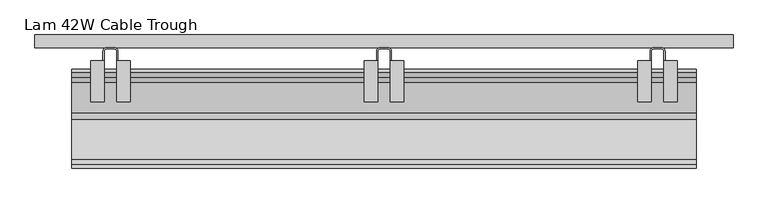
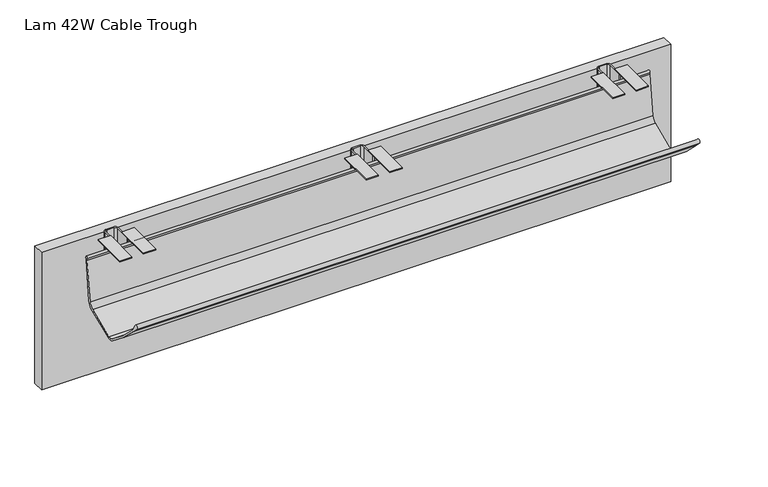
"""IFC4 building model written with IfcOpenShell, lengths in millimetres: furniture geometry, HermanMiller_ThrivePortfolio_Y1113_FabricModestyPanel : Lam 42W Cable Trough."""

from ifc_helpers import new_model, si_unit, point, frame, frame_2d, origin, place, context, project, spatial, polyline, circle_curve, trimmed, segment, composite_curve, outline, extrude, source, transform, mapped, element, save
from ifc_brep_helpers import plane_surface, cylinder_surface, revolved_surface, advanced_brep


def lam_42w_cable_trough_20baa9bf(model_context):
    return source(origin(), model_context, "Body", "SolidModel", [
        advanced_brep(
        [(998.7153477, -129.9784643, 581.1783587), (998.7153477, -138.7139894, 582.4060567), (998.7153477, -198.75422, 634.7826925), (998.7153477, -205.6805694, 647.1068285), (998.7153477, -210.7198187, 643.3318213), (998.7153477, -201.9455586, 634.3526316), (998.7153477, -140.1690696, 580.3237712), (998.7153477, -128.7464487, 578.9254856), (998.7153477, -81.6381997, 596.9970871), (998.7153477, -71.8455102, 609.1183797), (998.7153477, -64.3572545, 676.9567898), (998.7153477, -64.1154724, 681.4861643), (998.7153477, -68.0580279, 680.8258123), (998.7153477, -66.8071049, 677.1174631), (998.7153477, -75.8148763, 609.8656088), (998.7153477, -83.0609093, 601.0742849), (64.9478, -129.9784643, 581.1783587), (64.9478, -83.0609093, 601.0742849), (64.9478, -75.8148763, 609.8656088), (64.9478, -66.8071049, 677.1174631), (64.9478, -68.0580279, 680.8258123), (64.9478, -64.1154724, 681.4861643), (64.9478, -64.3572545, 676.9567898), (64.9478, -71.8455102, 609.1183797), (64.9478, -81.6381999, 596.9970876), (64.9478, -128.7464487, 578.9254856), (64.9478, -140.1690696, 580.3237712), (64.9478, -201.9455586, 634.3526316), (64.9478, -210.7198187, 643.3318213), (64.9478, -205.6805694, 647.1068285), (64.9478, -198.75422, 634.7826925), (64.9478, -138.7139894, 582.4060567)],
        [
            (0, 1, circle_curve(frame((998.7153477, -133.1380873, 590.3885672), z_axis=(-1.0, 0.0, 0.0), x_axis=(0.0, 1.0, 0.0)), 9.7371022)),
            (1, 2, circle_curve(frame((998.7153477, 73.7032601, 886.5044589), z_axis=(-1.0, 0.0, 0.0), x_axis=(0.0, 1.0, 0.0)), 370.9405965)),
            (2, 3),
            (3, 4, circle_curve(frame((998.7153477, -208.4487225, 645.5510849), z_axis=(1.0, 0.0, 0.0), x_axis=(0.0, 1.0, 0.0)), 3.1753754)),
            (4, 5),
            (5, 6, circle_curve(frame((998.7153477, 76.537838, 890.4379944), z_axis=(1.0, 0.0, 0.0), x_axis=(0.0, 1.0, 0.0)), 378.3288454)),
            (6, 7, circle_curve(frame((998.7153477, -133.1410154, 590.381132), z_axis=(1.0, 0.0, 0.0), x_axis=(0.0, 1.0, 0.0)), 12.2696394)),
            (7, 8, circle_curve(frame((998.7153477, -392.0017774, 1335.603441), z_axis=(1.0, 0.0, 0.0), x_axis=(0.0, 1.0, 0.0)), 801.1647124)),
            (8, 9, circle_curve(frame((998.7153477, -88.0102619, 612.1613845), z_axis=(1.0, 0.0, 0.0), x_axis=(0.0, 1.0, 0.0)), 16.4486801)),
            (9, 10, circle_curve(frame((998.7153477, -512.7649574, 692.1212018), z_axis=(1.0, 0.0, 0.0), x_axis=(0.0, 1.0, 0.0)), 448.6640474)),
            (10, 11),
            (11, 12, circle_curve(frame((998.7153477, -66.1477003, 681.5198841), z_axis=(1.0, 0.0, 0.0), x_axis=(0.0, 1.0, 0.0)), 2.0325076)),
            (12, 13),
            (13, 14, circle_curve(frame((998.7153477, -447.5076004, 693.8796345), z_axis=(-1.0, 0.0, 0.0), x_axis=(0.0, 1.0, 0.0)), 381.0693344)),
            (14, 15, circle_curve(frame((998.7153477, -89.557462, 613.8107535), z_axis=(-1.0, 0.0, 0.0), x_axis=(0.0, 1.0, 0.0)), 14.2976511)),
            (15, 0, circle_curve(frame((998.7153477, -247.1923462, 922.853387), z_axis=(-1.0, 0.0, 0.0), x_axis=(0.0, 1.0, 0.0)), 361.2214267)),
            (16, 17, circle_curve(frame((64.9478, -247.1923462, 922.853387), z_axis=(1.0, 0.0, 0.0), x_axis=(0.0, 1.0, 0.0)), 361.2214267)),
            (17, 18, circle_curve(frame((64.9478, -89.557462, 613.8107535), z_axis=(1.0, 0.0, 0.0), x_axis=(0.0, 1.0, 0.0)), 14.2976511)),
            (18, 19, circle_curve(frame((64.9478, -447.5076004, 693.8796345), z_axis=(1.0, 0.0, 0.0), x_axis=(0.0, 1.0, 0.0)), 381.0693344)),
            (19, 20),
            (20, 21, circle_curve(frame((64.9478, -66.1477003, 681.5198841), z_axis=(-1.0, 0.0, 0.0), x_axis=(0.0, 1.0, 0.0)), 2.0325076)),
            (21, 22),
            (22, 23, circle_curve(frame((64.9478, -512.7649574, 692.1212018), z_axis=(-1.0, 0.0, 0.0), x_axis=(0.0, 1.0, 0.0)), 448.6640474)),
            (23, 24, circle_curve(frame((64.9478, -88.0102619, 612.1613845), z_axis=(-1.0, 0.0, 0.0), x_axis=(0.0, 1.0, 0.0)), 16.4486801)),
            (24, 25, circle_curve(frame((64.9478, -392.0017774, 1335.603441), z_axis=(-1.0, 0.0, 0.0), x_axis=(0.0, 1.0, 0.0)), 801.1647124)),
            (25, 26, circle_curve(frame((64.9478, -133.1410154, 590.381132), z_axis=(-1.0, 0.0, 0.0), x_axis=(0.0, 1.0, 0.0)), 12.2696394)),
            (26, 27, circle_curve(frame((64.9478, 76.537838, 890.4379944), z_axis=(-1.0, 0.0, 0.0), x_axis=(0.0, 1.0, 0.0)), 378.3288454)),
            (27, 28),
            (28, 29, circle_curve(frame((64.9478, -208.4487225, 645.5510849), z_axis=(-1.0, 0.0, 0.0), x_axis=(0.0, 1.0, 0.0)), 3.1753754)),
            (29, 30),
            (30, 31, circle_curve(frame((64.9478, 73.7032601, 886.5044589), z_axis=(1.0, 0.0, 0.0), x_axis=(0.0, 1.0, 0.0)), 370.9405965)),
            (31, 16, circle_curve(frame((64.9478, -133.1380873, 590.3885672), z_axis=(1.0, 0.0, 0.0), x_axis=(0.0, 1.0, 0.0)), 9.7371022)),
            (0, 16),
            (31, 1),
            (30, 2),
            (29, 3),
            (28, 4),
            (27, 5),
            (26, 6),
            (25, 7),
            (24, 8),
            (23, 9),
            (22, 10),
            (21, 11),
            (20, 12),
            (19, 13),
            (18, 14),
            (17, 15),
        ],
        [
            plane_surface(frame((998.7153477, -123.4009851, 590.3885672), z_axis=(1.0, 0.0, 0.0), x_axis=(0.0, 0.0, -1.0))),
            plane_surface(frame((64.9478, -123.4009851, 590.3885672), z_axis=(-1.0, 0.0, 0.0), x_axis=(0.0, 0.0, 1.0))),
            revolved_surface(polyline([(64.9478, -123.4009851, 590.3885672), (998.7153477, -123.4009851, 590.3885672)]), (64.9478, -133.1380873, 590.3885672), (-1.0, 0.0, 0.0)),
            revolved_surface(polyline([(64.9478, 444.64385660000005, 886.5044589), (998.7153477, 444.64385660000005, 886.5044589)]), (64.9478, 73.7032601, 886.5044589), (-1.0, 0.0, 0.0)),
            plane_surface(frame((998.7153477, -198.75422, 634.7826925), z_axis=(0.0, 0.8717561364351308, 0.48994003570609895), x_axis=(-1.0, 0.0, 0.0))),
            cylinder_surface(frame((64.9478, -208.4487225, 645.5510849), z_axis=(1.0, 0.0, 0.0), x_axis=(0.0, 1.0, 0.0)), 3.1753754),
            plane_surface(frame((998.7153477, -210.7198187, 643.3318213), z_axis=(0.0, -0.7152213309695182, -0.698898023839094), x_axis=(-1.0, 0.0, 0.0))),
            cylinder_surface(frame((64.9478, 76.537838, 890.4379944), z_axis=(1.0, 0.0, 0.0), x_axis=(0.0, 1.0, 0.0)), 378.3288454),
            cylinder_surface(frame((64.9478, -133.1410154, 590.381132), z_axis=(1.0, 0.0, 0.0), x_axis=(0.0, 1.0, 0.0)), 12.2696394),
            cylinder_surface(frame((64.9478, -392.0017774, 1335.603441), z_axis=(1.0, 0.0, 0.0), x_axis=(0.0, 1.0, 0.0)), 801.1647124),
            cylinder_surface(frame((64.9478, -88.0102619, 612.1613845), z_axis=(1.0, 0.0, 0.0), x_axis=(0.0, 1.0, 0.0)), 16.4486801),
            cylinder_surface(frame((64.9478, -512.7649574, 692.1212018), z_axis=(1.0, 0.0, 0.0), x_axis=(0.0, 1.0, 0.0)), 448.6640474),
            plane_surface(frame((998.7153477, -64.3572545, 676.9567898), z_axis=(0.0, 0.9985782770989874, -0.053305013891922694), x_axis=(-1.0, 0.0, 0.0))),
            cylinder_surface(frame((64.9478, -66.1477003, 681.5198841), z_axis=(1.0, 0.0, 0.0), x_axis=(0.0, 1.0, 0.0)), 2.0325076),
            plane_surface(frame((998.7153477, -68.0580279, 680.8258123), z_axis=(0.0, -0.9475421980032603, -0.3196306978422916), x_axis=(-1.0, 0.0, 0.0))),
            revolved_surface(polyline([(64.9478, -66.438266, 693.8796345), (998.7153477, -66.438266, 693.8796345)]), (64.9478, -447.5076004, 693.8796345), (-1.0, 0.0, 0.0)),
            revolved_surface(polyline([(64.9478, -75.2598109, 613.8107535), (998.7153477, -75.2598109, 613.8107535)]), (64.9478, -89.557462, 613.8107535), (-1.0, 0.0, 0.0)),
            revolved_surface(polyline([(64.9478, 114.02908049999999, 922.853387), (998.7153477, 114.02908049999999, 922.853387)]), (64.9478, -247.1923462, 922.853387), (-1.0, 0.0, 0.0)),
        ],
        [
            (0, [[1, 2, 3, 4, 5, 6, 7, 8, 9, 10, 11, 12, 13, 14, 15, 16]]),
            (1, [[17, 18, 19, 20, 21, 22, 23, 24, 25, 26, 27, 28, 29, 30, 31, 32]]),
            (2, [[-1, 33, -32, 34]]),
            (3, [[-2, -34, -31, 35]]),
            (4, [[-3, -35, -30, 36]]),
            (5, [[-4, -36, -29, 37]]),
            (6, [[-5, -37, -28, 38]]),
            (7, [[-6, -38, -27, 39]]),
            (8, [[-7, -39, -26, 40]]),
            (9, [[-8, -40, -25, 41]]),
            (10, [[-9, -41, -24, 42]]),
            (11, [[-10, -42, -23, 43]]),
            (12, [[-11, -43, -22, 44]]),
            (13, [[-12, -44, -21, 45]]),
            (14, [[-13, -45, -20, 46]]),
            (15, [[-14, -46, -19, 47]]),
            (16, [[-15, -47, -18, 48]]),
            (17, [[-16, -48, -17, -33]]),
        ],
    ),
        extrude(outline(composite_curve([segment(polyline([(543.0520075, -36.9120729), (543.0520075, -64.1154724), (541.2993892, -64.1154724), (541.2993892, -36.9120524)]), True, "CONTINUOUS"), segment(trimmed(circle_curve(frame_2d((538.0228087, -36.9120524)), 3.2765805), [point((541.2993892, -36.9120524))], [point((538.0228087, -33.6354719))], True, "CARTESIAN"), True, "CONTINUOUS"), segment(polyline([(538.0228087, -33.6354719), (525.7292118, -33.6354719)]), True, "CONTINUOUS"), segment(trimmed(circle_curve(frame_2d((525.7292118, -36.9120729)), 3.276601), [point((525.7292118, -33.6354719))], [point((522.4526108, -36.9120729))], True, "CARTESIAN"), True, "CONTINUOUS"), segment(polyline([(522.4526108, -36.9120729), (522.4526108, -64.1154724), (520.7000288, -64.1154724), (520.7000288, -36.9138188)]), True, "CONTINUOUS"), segment(trimmed(circle_curve(frame_2d((525.7292277, -36.9138188)), 5.0291988), [point((520.7000288, -36.9138188))], [point((525.7292277, -31.88462))], False, "CARTESIAN"), True, "CONTINUOUS"), segment(polyline([(525.7292277, -31.88462), (538.0245546, -31.88462)]), True, "CONTINUOUS"), segment(trimmed(circle_curve(frame_2d((538.0245546, -36.9120729)), 5.0274529), [point((538.0245546, -31.88462))], [point((543.0520075, -36.9120729))], False, "CARTESIAN"), True, "CONTINUOUS")], self_intersect=False)), frame((0.0, 0.0, 627.634001), z_axis=(0.0, 0.0, 1.0), x_axis=(1.0, 0.0, 0.0)), (0.0, 0.0, 1.0), 64.6430019),
        extrude(outline(polyline([(522.4526108, -50.8780491), (522.4526108, -112.3460495), (502.0817975, -112.3460495), (502.0817975, -50.8780491), (522.4526108, -50.8780491)])), frame((0.0, 0.0, 692.2770029), z_axis=(0.0, 0.0, 1.0), x_axis=(1.0, 0.0, 0.0)), (0.0, 0.0, 1.0), 1.7525971),
        extrude(outline(polyline([(541.2993892, -50.8780491), (561.6702025, -50.8780491), (561.6702025, -112.3460495), (541.2993892, -112.3460495), (541.2993892, -50.8780491)])), frame((0.0, 0.0, 692.2770029), z_axis=(0.0, 0.0, 1.0), x_axis=(1.0, 0.0, 0.0)), (0.0, 0.0, 1.0), 1.7525971),
        extrude(outline(composite_curve([segment(polyline([(134.034088, -64.1154724), (132.2814878, -64.1154724), (132.2814878, -36.9120706)]), True, "CONTINUOUS"), segment(trimmed(circle_curve(frame_2d((129.0048891, -36.9120706)), 3.2765987), [point((132.2814878, -36.9120706))], [point((129.0048891, -33.6354719))], True, "CARTESIAN"), True, "CONTINUOUS"), segment(polyline([(129.0048891, -33.6354719), (116.7112831, -33.6354719)]), True, "CONTINUOUS"), segment(trimmed(circle_curve(frame_2d((116.7112831, -36.9120729)), 3.276601), [point((116.7112831, -33.6354719))], [point((113.4346822, -36.9120729))], True, "CARTESIAN"), True, "CONTINUOUS"), segment(polyline([(113.4346822, -36.9120729), (113.4346822, -64.1154724), (111.682082, -64.1154724), (111.682082, -36.9073034)]), True, "CONTINUOUS"), segment(trimmed(circle_curve(frame_2d((116.7047655, -36.9073034)), 5.0226834), [point((111.682082, -36.9073034))], [point((116.7047655, -31.88462))], False, "CARTESIAN"), True, "CONTINUOUS"), segment(polyline([(116.7047655, -31.88462), (129.0066351, -31.88462)]), True, "CONTINUOUS"), segment(trimmed(circle_curve(frame_2d((129.0066351, -36.9120729)), 5.0274529), [point((129.0066351, -31.88462))], [point((134.034088, -36.9120729))], False, "CARTESIAN"), True, "CONTINUOUS"), segment(polyline([(134.034088, -36.9120729), (134.034088, -64.1154724)]), True, "CONTINUOUS")], self_intersect=False)), frame((0.0, 0.0, 627.634001), z_axis=(0.0, 0.0, 1.0), x_axis=(1.0, 0.0, 0.0)), (0.0, 0.0, 1.0), 64.6430019),
        extrude(outline(composite_curve([segment(polyline([(952.0720465, -64.1154724), (950.3194282, -64.1154724), (950.3194282, -36.9120524)]), True, "CONTINUOUS"), segment(trimmed(circle_curve(frame_2d((947.0428476, -36.9120524)), 3.2765805), [point((950.3194282, -36.9120524))], [point((947.0428476, -33.6354719))], True, "CARTESIAN"), True, "CONTINUOUS"), segment(polyline([(947.0428476, -33.6354719), (934.7492507, -33.6354719)]), True, "CONTINUOUS"), segment(trimmed(circle_curve(frame_2d((934.7492507, -36.9120729)), 3.276601), [point((934.7492507, -33.6354719))], [point((931.4726498, -36.9120729))], True, "CARTESIAN"), True, "CONTINUOUS"), segment(polyline([(931.4726498, -36.9120729), (931.4726498, -64.1154724), (929.7200315, -64.1154724), (929.7200315, -36.9072943)]), True, "CONTINUOUS"), segment(trimmed(circle_curve(frame_2d((934.7427058, -36.9072943)), 5.0226743), [point((929.7200315, -36.9072943))], [point((934.7427058, -31.88462))], False, "CARTESIAN"), True, "CONTINUOUS"), segment(polyline([(934.7427058, -31.88462), (947.0445936, -31.88462)]), True, "CONTINUOUS"), segment(trimmed(circle_curve(frame_2d((947.0445936, -36.9120729)), 5.0274529), [point((947.0445936, -31.88462))], [point((952.0720465, -36.9120729))], False, "CARTESIAN"), True, "CONTINUOUS"), segment(polyline([(952.0720465, -36.9120729), (952.0720465, -64.1154724)]), True, "CONTINUOUS")], self_intersect=False)), frame((0.0, 0.0, 627.634001), z_axis=(0.0, 0.0, 1.0), x_axis=(1.0, 0.0, 0.0)), (0.0, 0.0, 1.0), 64.6430019),
        extrude(outline(polyline([(113.4346822, -112.3460495), (93.0638871, -112.3460495), (93.0638871, -50.8780491), (113.4346822, -50.8780491), (113.4346822, -112.3460495)])), frame((0.0, 0.0, 692.2770029), z_axis=(0.0, 0.0, 1.0), x_axis=(1.0, 0.0, 0.0)), (0.0, 0.0, 1.0), 1.7525971),
        extrude(outline(polyline([(152.652292, -50.8780491), (152.652292, -112.3460495), (132.2814878, -112.3460495), (132.2814878, -50.8780491), (152.652292, -50.8780491)])), frame((0.0, 0.0, 692.2770029), z_axis=(0.0, 0.0, 1.0), x_axis=(1.0, 0.0, 0.0)), (0.0, 0.0, 1.0), 1.7525971),
        extrude(outline(polyline([(931.4726498, -50.8780491), (931.4726498, -112.3460495), (911.1018365, -112.3460495), (911.1018365, -50.8780491), (931.4726498, -50.8780491)])), frame((0.0, 0.0, 692.2770029), z_axis=(0.0, 0.0, 1.0), x_axis=(1.0, 0.0, 0.0)), (0.0, 0.0, 1.0), 1.7525971),
        extrude(outline(polyline([(950.3194282, -50.8780491), (970.6902414, -50.8780491), (970.6902414, -112.3460495), (950.3194282, -112.3460495), (950.3194282, -50.8780491)])), frame((0.0, 0.0, 692.2770029), z_axis=(0.0, 0.0, 1.0), x_axis=(1.0, 0.0, 0.0)), (0.0, 0.0, 1.0), 1.7525971),
        extrude(outline(polyline([(1053.846, -12.58062), (1053.846, -31.88462), (9.906, -31.88462), (9.906, -12.58062), (1053.846, -12.58062)])), frame((0.0, 0.0, 447.66738), z_axis=(0.0, 0.0, 1.0), x_axis=(1.0, 0.0, 0.0)), (0.0, 0.0, 1.0), 241.3),
    ])


if __name__ == "__main__":
    model = new_model("IFC4")
    model_context = context("Model", 3, world=origin())
    ifc_project = project(units=[si_unit("LENGTHUNIT", "METRE", prefix="MILLI")], contexts=[model_context])
    site = spatial("IfcSite", under=ifc_project)
    building = spatial("IfcBuilding", under=site)
    placement = place(None, origin())
    lam_42w_cable_trough_shape = lam_42w_cable_trough_20baa9bf(model_context)
    element("IfcFurniture", 1, ObjectType="HermanMiller_ThrivePortfolio_Y1113_FabricModestyPanel : Lam 42W Cable Trough", at=placement, inside=building, context=model_context, shape_type="MappedRepresentation", body=[
        mapped(lam_42w_cable_trough_shape, transform((0.0, 0.0, 0.0), x_axis=(1.0, 0.0, 0.0), y_axis=(0.0, 1.0, 0.0), z_axis=(0.0, 0.0, 1.0))),
    ])
    save(model, "model.ifc")
